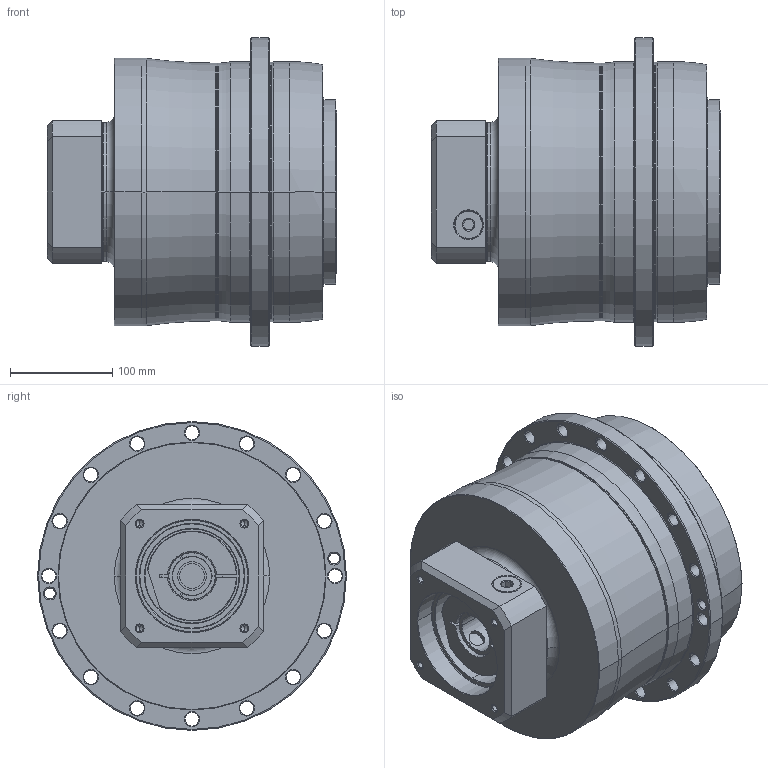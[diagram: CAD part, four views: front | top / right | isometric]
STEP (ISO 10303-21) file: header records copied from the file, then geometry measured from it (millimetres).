
FILE_DESCRIPTION((''),'2;1');
FILE_NAME('AH255_2ST_38-P0409900101_ASM','2016-08-15T',('d01943'),(''),'PRO/ENGINEER BY PARAMETRIC TECHNOLOGY CORPORATION, 2008410','PRO/ENGINEER BY PARAMETRIC TECHNOLOGY CORPORATION, 2008410','');
FILE_SCHEMA(('CONFIG_CONTROL_DESIGN'));
Length unit declared in the file: millimetre
Products named in the file (8): P0278700003; P0359700003; P1317700201; P0409900101; P0503900012; P0912602001; 21711422019; AH255_2ST_38-P0409900101_ASM
Assembly tree (7 placements, depth 2):
  AH255_2ST_38-P0409900101_ASM
    P0278700003
    P0359700003
    P1317700201
    P0409900101
    P0503900012
    P0912602001
    21711422019
Bounding box: 283 x 302 x 302 mm (x, y, z)
Volume: 11336841.1 mm3; surface area: 727359.7 mm2
Topology: 8 solids, 8 shells, 578 faces, 1339 edges, 783 vertices
Faces by surface type: cylinder 218, cone 190, plane 96, torus 60, bspline 14
Entity records: 20864 total; most frequent: CARTESIAN_POINT 7430, DIRECTION 3041, ORIENTED_EDGE 2586, EDGE_CURVE 1293, AXIS2_PLACEMENT_3D 1281, VERTEX_POINT 783, CIRCLE 702, EDGE_LOOP 680
